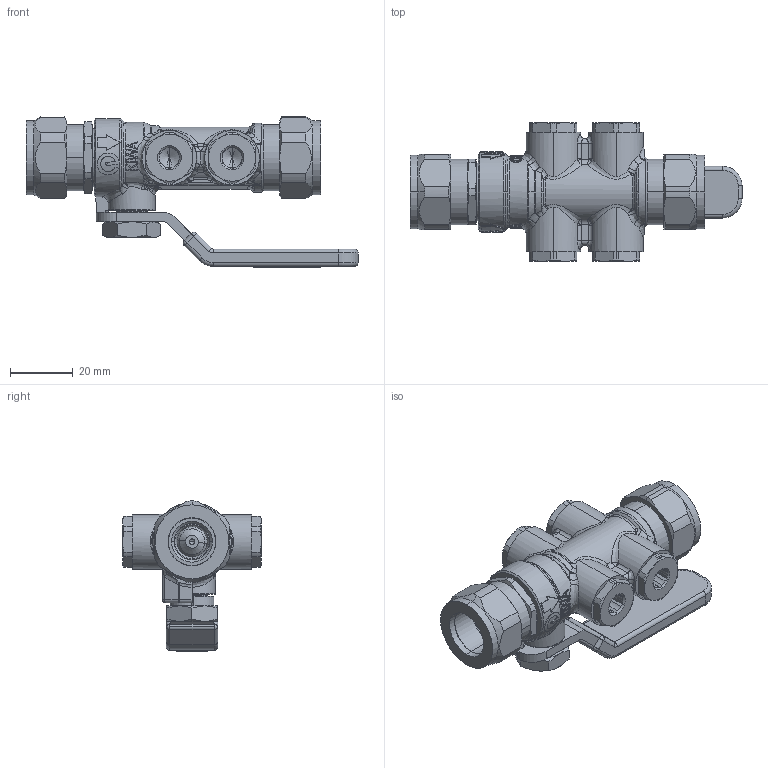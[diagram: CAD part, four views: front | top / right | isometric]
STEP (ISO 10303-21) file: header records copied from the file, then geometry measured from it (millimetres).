
FILE_DESCRIPTION (( 'STEP AP214' ), '1' );
FILE_NAME ('W228015242.STEP', '2018-09-17T06:55:54', ( '' ), ( '' ), 'SwSTEP 2.0', 'SolidWorks 2017', '' );
FILE_SCHEMA (( 'AUTOMOTIVE_DESIGN' ));
Length unit declared in the file: millimetre
Products named in the file (21): 10088; W093003102_00A; W098015209_W098015212_PerceeEnrobee; W098015100_A_Def; 22102343_Ressort; W092015311_01A; W099015600_A; W022014070; W228015242; W034015500_04A_W034015511UsComp15; W098010203_00A; W098015211_00A_P627 4 pour 20 et 25; W149015618_closed; 2224003_house; 9696; W098010200_01A; 22102343_Valve; 22102343_Membrane; W097015109_A_Def; W022015070JT12x1.5; 22102343_Torpedo
Assembly tree (29 placements, depth 3):
  W228015242
    W034015500_04A_W034015511UsComp15
    W098015211_00A_P627 4 pour 20 et 25
    W098015209_W098015212_PerceeEnrobee
    9696
    10088
    W092015311_01A
    W098010200_01A
    W098010203_00A  x2
    W097015109_A_Def  x2
    W098015100_A_Def  x2
    W149015618_closed
      22102343_Membrane
      22102343_Torpedo
      22102343_Ressort
      22102343_Valve
      2224003_house
    W022015070JT12x1.5
    W099015600_A
    W093003102_00A  x4
    W022014070  x4
Bounding box: 105.85 x 44.2 x 47.85 mm (x, y, z)
Volume: 44284.6 mm3; surface area: 37945.2 mm2
Topology: 29 solids, 29 shells, 1396 faces, 3462 edges, 2114 vertices
Faces by surface type: plane 500, cylinder 346, cone 222, bspline 205, torus 113, sphere 10
Entity records: 48018 total; most frequent: CARTESIAN_POINT 20779, ORIENTED_EDGE 5736, DIRECTION 5087, EDGE_CURVE 2868, AXIS2_PLACEMENT_3D 2035, VERTEX_POINT 1768, EDGE_LOOP 1240, ADVANCED_FACE 1167
